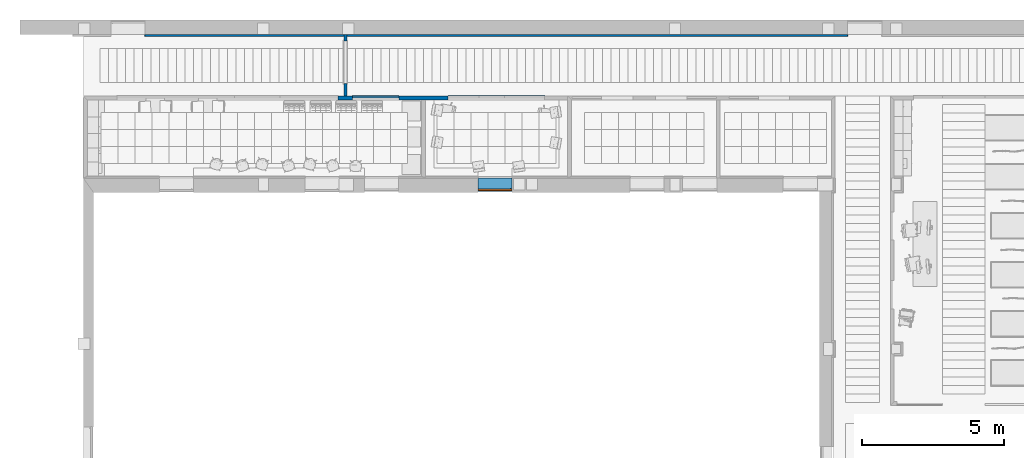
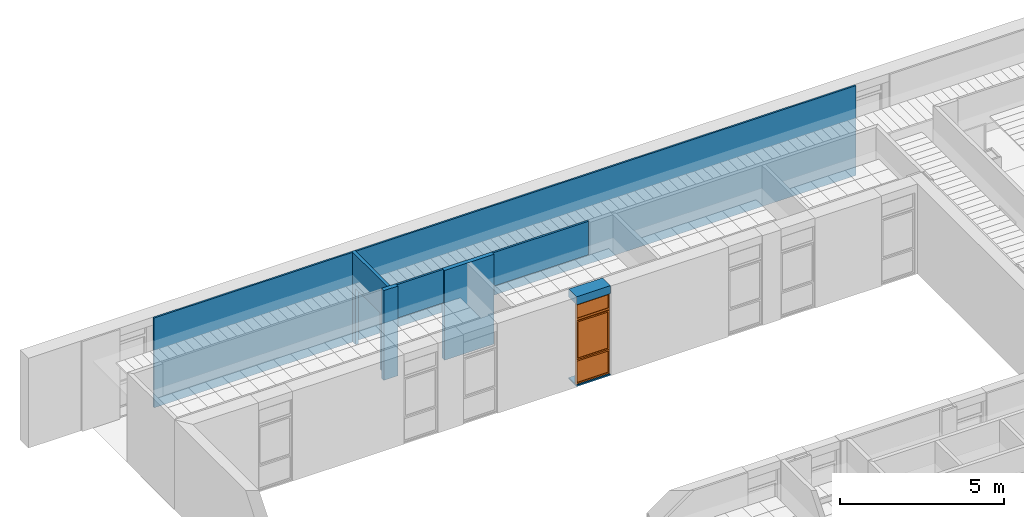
# One storey, part 38 of 68: 7 walls, 1 proxy, 6 openings.
"""IFC2X3 building model written with IfcOpenShell, lengths in millimetres."""

from ifc_helpers import new_model, entity, si_unit, converted_unit, derived_unit, money_unit, direction, frame, origin_with_axes, origin_2d_with_axis, place, context, subcontext, project, spatial, polyline, rectangle, outline, extrude, open_shell, faceted_brep, surface_model, source, transform, mapped, material, layer, layer_set, layer_usage, type_object, element, fill, save


model = new_model("IFC2X3")

# Units and contexts
model_context = context("Model", 3, precision=0.01, world=origin_with_axes(), true_north=direction((0.0, 1.0)))
body_context = subcontext(model_context, "Body", "Model", "MODEL_VIEW")
ifc_project = project(units=[si_unit("LENGTHUNIT", "METRE", prefix="MILLI"), si_unit("AREAUNIT", "SQUARE_METRE"), si_unit("VOLUMEUNIT", "CUBIC_METRE"), converted_unit("PLANEANGLEUNIT", "DEGREE", entity("IfcPlaneAngleMeasure", 0.0174532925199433), si_unit("PLANEANGLEUNIT", "RADIAN"), dimensions=[0, 0, 0, 0, 0, 0, 0]), money_unit("USD"), converted_unit("TIMEUNIT", "Year", entity("IfcTimeMeasure", 31557600.0), si_unit("TIMEUNIT", "SECOND"), dimensions=[0, 0, 1, 0, 0, 0, 0]), si_unit("MASSUNIT", "GRAM", prefix="KILO"), si_unit("THERMODYNAMICTEMPERATUREUNIT", "DEGREE_CELSIUS"), si_unit("LUMINOUSINTENSITYUNIT", "LUMEN"), si_unit("ENERGYUNIT", "JOULE", prefix="MEGA"), derived_unit("THERMALCONDUCTANCEUNIT", [(si_unit("POWERUNIT", "WATT"), 1), (si_unit("LENGTHUNIT", "METRE"), -1), (si_unit("THERMODYNAMICTEMPERATUREUNIT", "KELVIN"), -1)]), derived_unit("SPECIFICHEATCAPACITYUNIT", [(si_unit("ENERGYUNIT", "JOULE"), 1), (si_unit("MASSUNIT", "GRAM", prefix="KILO"), -1), (si_unit("THERMODYNAMICTEMPERATUREUNIT", "KELVIN"), -1)]), derived_unit("MASSDENSITYUNIT", [(si_unit("MASSUNIT", "GRAM", prefix="KILO"), 1), (si_unit("VOLUMEUNIT", "CUBIC_METRE"), -1)])], contexts=[model_context])

# Site, building, storey
site_placement = place(None, origin_with_axes())
site = spatial("IfcSite", under=ifc_project, at=site_placement, Name="Sitio", CompositionType="ELEMENT")
building_placement = place(site_placement, origin_with_axes())
building = spatial("IfcBuilding", under=site, at=building_placement, Name="Construcción", CompositionType="ELEMENT")
storey_placement = place(building_placement, origin_with_axes())
storey = spatial("IfcBuildingStorey", under=building, at=storey_placement, Name="PLANTA 1ª", CompositionType="ELEMENT", Elevation=0.0)

# Wall, opening, proxy
ifc_material_1 = material(Name="ARQ_AM246_Arrebossat_De_Guix")
ifc_layer_1 = layer(ifc_material_1, 10.0, ventilated="UNKNOWN")
ifc_material_2 = material(Name="ARQ_CE217_Gero")
ifc_layer_2 = layer(ifc_material_2, 120.0, ventilated="UNKNOWN")
ifc_material_3 = material(Name="ARQ_AI031_Aillament_Poliestireno expandido EPS")
ifc_layer_3 = layer(ifc_material_3, 120.0, ventilated="UNKNOWN")
ifc_material_4 = material(Name="ARQ_CE218_Ceramic")
ifc_layer_4 = layer(ifc_material_4, 220.0, ventilated="UNKNOWN")
ifc_layer_5 = layer(ifc_material_1, 10.0, ventilated="UNKNOWN")
ifc_layer_set_1 = layer_set([ifc_layer_1, ifc_layer_2, ifc_layer_3, ifc_layer_4, ifc_layer_5], Name="façana pati CR2 (ampit)")
ifc_layer_usage_1 = layer_usage(ifc_layer_set_1, "AXIS2", "POSITIVE", -480.0)
wall_type_1 = type_object("IfcWallType", Name="façana pati CR2 (ampit) 480", PredefinedType="NOTDEFINED")
wall_1_placement = place(storey_placement, frame((-14135.93135579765, -1193.975823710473, 0.0), z_axis=(0.0, 0.0, 1.0), x_axis=(1.0, 0.0, 0.0)))
wall_1 = element("IfcWallStandardCase", 1, at=wall_1_placement, inside=storey, type_object=wall_type_1, material=ifc_layer_usage_1, Name="MS-200", context=body_context, shape_type="SweptSolid", body=[
    extrude(outline(polyline([(0.0, -480.0), (1200.000000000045, -480.0), (1200.000000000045, 0.0), (0.0, 0.0), (0.0, -480.0)])), origin_with_axes(), (0.0, 0.0, 1.0), 3350.0),
])
opening_1_placement = place(wall_1_placement, frame((599.9999999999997, 0.0, 50.0), z_axis=(0.0, 0.0, 1.0), x_axis=(1.0, 0.0, 0.0)))
opening_1 = element("IfcOpeningElement", 2, at=opening_1_placement, cuts=wall_1, Name="F01", context=body_context, shape_type="SweptSolid", body=[
    extrude(rectangle(XDim=1199.999999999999, YDim=3000.0, at=origin_2d_with_axis()), frame((0.0, -429.9999999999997, 1500.0), z_axis=(0.0, -1.0, 0.0), x_axis=(-1.0, 0.0, 0.0)), (0.0, 0.0, -1.0), 909.9999999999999),
    extrude(rectangle(XDim=1199.999999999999, YDim=3000.0, at=origin_2d_with_axis()), frame((0.0, -429.9999999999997, 1500.0), z_axis=(0.0, 1.0, 0.0), x_axis=(-1.0, 0.0, 0.0)), (0.0, 0.0, -1.0), 530.0),
])
building_element_proxy_type = type_object("IfcBuildingElementProxyType", Name="Ventana Vertical Multi-Faja 27", PredefinedType="NOTDEFINED")
shared_shape = source(origin_with_axes(), body_context, "Body", "SurfaceModel", [
    faceted_brep([(-575.0, 0.0, 925.0), (-549.9999999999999, 0.0, 925.0), (-549.9999999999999, 0.0, 850.0), (-549.9999999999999, 0.0, 50.00000000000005), (-600.0, 0.0, 50.00000000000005), (-600.0, 0.0, 2950.0), (-549.9999999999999, 0.0, 2950.0), (-549.9999999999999, 0.0, 2450.0), (-549.9999999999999, 0.0, 2375.0), (-575.0, 0.0, 2375.0), (-575.0, -25.00000000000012, 925.0), (-549.9999999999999, -25.00000000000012, 925.0), (-549.9999999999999, -25.00000000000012, 950.0000000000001), (-549.9999999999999, -50.00000000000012, 950.0000000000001), (-549.9999999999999, -50.00000000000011, 850.0), (-549.9999999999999, -50.00000000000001, 50.00000000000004), (-600.0, -50.00000000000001, 50.00000000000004), (-600.0, -50.00000000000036, 2950.0), (-549.9999999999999, -50.00000000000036, 2950.0), (-549.9999999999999, -50.0000000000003, 2450.0), (-550.0, -25.00000000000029, 2375.0), (-549.9999999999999, -50.00000000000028, 2350.0), (-549.9999999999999, -25.00000000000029, 2350.0), (-575.0, -25.00000000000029, 2375.0)], [[[0, 1, 2, 3, 4, 5, 6, 7, 8, 9]], [[0, 10, 11, 1]], [[11, 12, 13, 14, 2, 1]], [[3, 2, 14, 15]], [[4, 3, 15, 16]], [[5, 4, 16, 17]], [[6, 5, 17, 18]], [[7, 6, 18, 19]], [[20, 8, 7, 19, 21, 22]], [[20, 23, 9, 8]], [[9, 23, 10, 0]], [[22, 12, 11, 10, 23, 20]], [[22, 21, 13, 12]], [[17, 16, 15, 14, 13, 21, 19, 18]]]),
    faceted_brep([(575.0, 0.0, 925.0), (575.0, 0.0, 2375.0), (549.9999999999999, 0.0, 2375.0), (549.9999999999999, 0.0, 2450.0), (549.9999999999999, 0.0, 2950.0), (600.0, 0.0, 2950.0), (600.0, 0.0, 50.00000000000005), (549.9999999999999, 0.0, 50.00000000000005), (549.9999999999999, 0.0, 850.0), (549.9999999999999, 0.0, 925.0), (575.0, -25.00000000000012, 925.0), (575.0, -25.00000000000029, 2375.0), (549.9999999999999, -25.00000000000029, 2375.0), (549.9999999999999, -25.00000000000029, 2350.0), (549.9999999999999, -50.00000000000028, 2350.0), (549.9999999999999, -50.0000000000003, 2450.0), (549.9999999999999, -50.00000000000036, 2950.0), (600.0, -50.00000000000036, 2950.0), (600.0, -50.00000000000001, 50.00000000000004), (549.9999999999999, -50.00000000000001, 50.00000000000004), (549.9999999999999, -50.00000000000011, 850.0), (550.0, -25.00000000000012, 925.0), (549.9999999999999, -50.00000000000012, 950.0000000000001), (549.9999999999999, -25.00000000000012, 950.0000000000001)], [[[0, 1, 2, 3, 4, 5, 6, 7, 8, 9]], [[0, 10, 11, 1]], [[1, 11, 12, 2]], [[12, 13, 14, 15, 3, 2]], [[4, 3, 15, 16]], [[5, 4, 16, 17]], [[6, 5, 17, 18]], [[7, 6, 18, 19]], [[8, 7, 19, 20]], [[21, 9, 8, 20, 22, 23]], [[9, 21, 10, 0]], [[12, 11, 10, 21, 23, 13]], [[23, 22, 14, 13]], [[14, 22, 20, 19, 18, 17, 16, 15]]]),
    faceted_brep([(-549.9999999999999, -25.00000000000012, 950.0000000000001), (-549.9999999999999, -50.00000000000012, 950.0000000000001), (549.9999999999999, -50.00000000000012, 950.0000000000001), (549.9999999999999, -25.00000000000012, 950.0000000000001), (-549.9999999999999, -25.00000000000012, 925.0), (-549.9999999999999, 0.0, 925.0), (-549.9999999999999, 0.0, 850.0), (-549.9999999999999, -50.00000000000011, 850.0), (549.9999999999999, -50.00000000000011, 850.0), (550.0, -25.00000000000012, 925.0), (549.9999999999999, 0.0, 850.0), (549.9999999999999, 0.0, 925.0)], [[[0, 1, 2, 3]], [[4, 5, 6, 7, 1, 0]], [[1, 7, 8, 2]], [[9, 3, 2, 8, 10, 11]], [[9, 4, 0, 3]], [[5, 4, 9, 11]], [[11, 10, 6, 5]], [[6, 10, 8, 7]]]),
    faceted_brep([(-549.9999999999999, 0.0, 2375.0), (-549.9999999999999, 0.0, 2450.0), (549.9999999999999, 0.0, 2450.0), (549.9999999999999, 0.0, 2375.0), (-550.0, -25.00000000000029, 2375.0), (-549.9999999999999, -25.00000000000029, 2350.0), (-549.9999999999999, -50.00000000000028, 2350.0), (-549.9999999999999, -50.0000000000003, 2450.0), (549.9999999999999, -50.0000000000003, 2450.0), (549.9999999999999, -25.00000000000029, 2375.0), (549.9999999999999, -50.00000000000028, 2350.0), (549.9999999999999, -25.00000000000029, 2350.0)], [[[0, 1, 2, 3]], [[4, 5, 6, 7, 1, 0]], [[2, 1, 7, 8]], [[9, 3, 2, 8, 10, 11]], [[9, 4, 0, 3]], [[11, 5, 4, 9]], [[11, 10, 6, 5]], [[7, 6, 10, 8]]]),
    faceted_brep([(549.9999999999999, -50.00000000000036, 2950.0), (549.9999999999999, 0.0, 2950.0), (600.0, 0.0, 2950.0), (600.0, -50.00000000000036, 2950.0), (-549.9999999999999, -50.00000000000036, 2950.0), (-549.9999999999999, 0.0, 2950.0), (-600.0, 0.0, 2950.0), (-600.0, 0.0, 3000.0), (600.0, 0.0, 3000.0), (600.0, -50.00000000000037, 3000.0), (-600.0, -50.00000000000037, 3000.0), (-600.0, -50.00000000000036, 2950.0)], [[[0, 1, 2, 3]], [[4, 5, 1, 0]], [[1, 5, 6, 7, 8, 2]], [[3, 2, 8, 9]], [[0, 3, 9, 10, 11, 4]], [[11, 6, 5, 4]], [[10, 7, 6, 11]], [[9, 8, 7, 10]]]),
    faceted_brep([(-549.9999999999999, -50.00000000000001, 50.0), (-549.9999999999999, 0.0, 50.00000000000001), (-600.0, 0.0, 50.00000000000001), (-600.0, -50.00000000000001, 50.0), (549.9999999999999, -50.00000000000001, 50.0), (549.9999999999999, 0.0, 50.00000000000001), (600.0, 0.0, 50.00000000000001), (600.0, 0.0, 0.0), (-600.0, 0.0, 0.0), (-600.0, -50.0, 0.0), (600.0, -50.0, 0.0), (600.0, -50.00000000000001, 50.0)], [[[0, 1, 2, 3]], [[4, 5, 1, 0]], [[1, 5, 6, 7, 8, 2]], [[3, 2, 8, 9]], [[0, 3, 9, 10, 11, 4]], [[11, 6, 5, 4]], [[10, 7, 6, 11]], [[9, 8, 7, 10]]]),
    surface_model("IfcShellBasedSurfaceModel", [(-549.9999999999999, -35.0, 49.99999999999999), (549.9999999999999, -35.0, 49.99999999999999), (549.9999999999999, -35.0000000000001, 850.0), (-549.9999999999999, -35.0000000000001, 850.0)], [open_shell([[[0, 1, 2, 3]]])]),
    surface_model("IfcShellBasedSurfaceModel", [(-549.9999999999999, -15.0, 49.99999999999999), (-549.9999999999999, -15.0000000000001, 850.0), (549.9999999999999, -15.0000000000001, 850.0), (549.9999999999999, -15.0, 49.99999999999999)], [open_shell([[[0, 1, 2, 3]]])]),
    faceted_brep([(-521.5, -25.00000000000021, 1677.0), (-522.8397459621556, -25.00000000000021, 1682.0), (-522.8397459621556, -37.00000000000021, 1682.0), (-521.5, -37.00000000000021, 1677.0), (-521.5, -25.0000000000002, 1623.0), (-522.8397459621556, -25.0000000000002, 1618.0), (-526.5, -25.0000000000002, 1614.339745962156), (-531.5, -25.0000000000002, 1613.0), (-543.5, -25.0000000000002, 1613.0), (-548.5, -25.0000000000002, 1614.339745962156), (-552.1602540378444, -25.0000000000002, 1618.0), (-553.5, -25.0000000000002, 1623.0), (-553.5, -25.00000000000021, 1677.0), (-552.1602540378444, -25.00000000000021, 1682.0), (-548.5, -25.00000000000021, 1685.660254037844), (-543.5, -25.00000000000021, 1687.0), (-531.5, -25.00000000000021, 1687.0), (-526.5, -25.00000000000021, 1685.660254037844), (-526.5, -37.00000000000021, 1685.660254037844), (-531.5, -37.00000000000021, 1687.0), (-543.5, -37.00000000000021, 1687.0), (-548.5, -37.00000000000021, 1685.660254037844), (-552.1602540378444, -37.00000000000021, 1682.0), (-553.5, -37.00000000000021, 1677.0), (-553.5, -37.0000000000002, 1623.0), (-552.1602540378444, -37.0000000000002, 1618.0), (-548.5, -37.0000000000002, 1614.339745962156), (-543.5, -37.0000000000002, 1613.0), (-531.5, -37.0000000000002, 1613.0), (-526.5, -37.0000000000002, 1614.339745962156), (-522.8397459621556, -37.0000000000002, 1618.0), (-521.5, -37.0000000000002, 1623.0)], [[[0, 1, 2, 3]], [[0, 4, 5, 6, 7, 8, 9, 10, 11, 12, 13, 14, 15, 16, 17, 1]], [[1, 17, 18, 2]], [[3, 2, 18, 19, 20, 21, 22, 23, 24, 25, 26, 27, 28, 29, 30, 31]], [[4, 0, 3, 31]], [[5, 4, 31, 30]], [[6, 5, 30, 29]], [[7, 6, 29, 28]], [[8, 7, 28, 27]], [[9, 8, 27, 26]], [[10, 9, 26, 25]], [[11, 10, 25, 24]], [[12, 11, 24, 23]], [[13, 12, 23, 22]], [[14, 13, 22, 21]], [[15, 14, 21, 20]], [[16, 15, 20, 19]], [[17, 16, 19, 18]]]),
    faceted_brep([(-537.5, -37.0000000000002, 1663.5), (-544.25, -37.0000000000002, 1661.69134295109), (-544.25, -61.00000000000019, 1661.69134295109), (-537.5, -61.00000000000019, 1663.5), (-530.75, -37.0000000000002, 1661.69134295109), (-525.80865704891, -37.0000000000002, 1656.75), (-524.0, -37.0000000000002, 1650.0), (-525.8086570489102, -37.0000000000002, 1643.25), (-530.75, -37.0000000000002, 1638.30865704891), (-537.5, -37.0000000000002, 1636.5), (-544.25, -37.0000000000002, 1638.30865704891), (-549.19134295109, -37.0000000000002, 1643.25), (-550.9999999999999, -37.0000000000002, 1650.0), (-549.1913429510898, -37.0000000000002, 1656.75), (-549.1913429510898, -61.00000000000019, 1656.75), (-550.9999999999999, -61.00000000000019, 1650.0), (-549.19134295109, -61.00000000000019, 1643.25), (-544.25, -61.00000000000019, 1638.30865704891), (-537.5, -61.00000000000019, 1636.5), (-530.75, -61.00000000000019, 1638.30865704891), (-525.8086570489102, -61.00000000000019, 1643.25), (-524.0, -61.00000000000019, 1650.0), (-525.80865704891, -61.00000000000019, 1656.75), (-530.75, -61.00000000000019, 1661.69134295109)], [[[0, 1, 2, 3]], [[0, 4, 5, 6, 7, 8, 9, 10, 11, 12, 13, 1]], [[1, 13, 14, 2]], [[3, 2, 14, 15, 16, 17, 18, 19, 20, 21, 22, 23]], [[4, 0, 3, 23]], [[5, 4, 23, 22]], [[6, 5, 22, 21]], [[7, 6, 21, 20]], [[8, 7, 20, 19]], [[9, 8, 19, 18]], [[10, 9, 18, 17]], [[11, 10, 17, 16]], [[12, 11, 16, 15]], [[13, 12, 15, 14]]]),
    faceted_brep([(-526.0, -61.00000000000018, 1543.0), (-537.5, -61.00000000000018, 1540.0), (-548.9999999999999, -61.00000000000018, 1543.0), (-550.9999999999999, -61.00000000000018, 1546.0), (-550.9999999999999, -61.00000000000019, 1650.0), (-549.1913429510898, -61.00000000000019, 1656.75), (-544.25, -61.00000000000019, 1661.69134295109), (-537.5, -61.00000000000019, 1663.5), (-530.75, -61.00000000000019, 1661.69134295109), (-525.80865704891, -61.00000000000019, 1656.75), (-524.0, -61.00000000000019, 1650.0), (-524.0, -61.00000000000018, 1546.0), (-525.9999999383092, -69.00000000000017, 1543.000000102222), (-537.499999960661, -69.00000000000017, 1539.999999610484), (-548.9999999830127, -69.00000000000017, 1543.000000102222), (-551.0000003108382, -69.00000000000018, 1545.999999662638), (-551.0000003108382, -69.0000000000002, 1649.99999994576), (-549.1913429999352, -69.0000000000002, 1656.749999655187), (-544.2499996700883, -69.0000000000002, 1661.691342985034), (-537.499999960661, -69.0000000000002, 1663.500000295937), (-530.7500002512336, -69.0000000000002, 1661.691342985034), (-525.8086569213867, -69.0000000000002, 1656.749999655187), (-523.9999996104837, -69.0000000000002, 1649.99999994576), (-523.9999996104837, -69.00000000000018, 1545.999999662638), (-527.8625374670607, -71.99999956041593, 1545.61451963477), (-537.499999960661, -71.99999956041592, 1543.100398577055), (-547.1374624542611, -71.99999956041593, 1545.61451963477), (-548.0000007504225, -71.99999956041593, 1546.908326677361), (-548.0000007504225, -71.99999956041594, 1649.605042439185), (-546.5016170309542, -71.99999956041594, 1655.197085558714), (-542.6970855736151, -71.99999956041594, 1659.001617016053), (-537.499999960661, -71.99999956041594, 1660.394172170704), (-532.3029143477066, -71.99999956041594, 1659.001617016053), (-528.4983828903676, -71.99999956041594, 1655.197085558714), (-526.9999991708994, -71.99999956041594, 1649.605042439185), (-526.9999991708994, -71.99999956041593, 1546.908326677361)], [[[0, 1, 2, 3, 4, 5, 6, 7, 8, 9, 10, 11]], [[1, 0, 12, 13]], [[2, 1, 13, 14]], [[3, 2, 14, 15]], [[4, 3, 15, 16]], [[5, 4, 16, 17]], [[6, 5, 17, 18]], [[7, 6, 18, 19]], [[8, 7, 19, 20]], [[9, 8, 20, 21]], [[10, 9, 21, 22]], [[11, 10, 22, 23]], [[0, 11, 23, 12]], [[13, 12, 24, 25]], [[14, 13, 25, 26]], [[15, 14, 26, 27]], [[16, 15, 27, 28]], [[17, 16, 28, 29]], [[18, 17, 29, 30]], [[19, 18, 30, 31]], [[20, 19, 31, 32]], [[21, 20, 32, 33]], [[22, 21, 33, 34]], [[23, 22, 34, 35]], [[12, 23, 35, 24]], [[26, 25, 24, 35, 34, 33, 32, 31, 30, 29, 28, 27]]]),
    faceted_brep([(-524.9999999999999, -25.00000000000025, 2325.0), (-524.9999999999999, 24.99999999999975, 2325.0), (-575.0, 24.99999999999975, 2325.0), (-575.0, -25.00000000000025, 2325.0), (-524.9999999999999, -25.00000000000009, 975.0000000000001), (-524.9999999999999, 24.99999999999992, 975.0000000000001), (-575.0, 24.99999999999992, 975.0000000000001), (-575.0, -25.00000000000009, 975.0000000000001)], [[[0, 1, 2, 3]], [[4, 5, 1, 0]], [[1, 5, 6, 2]], [[3, 2, 6, 7]], [[0, 3, 7, 4]], [[7, 6, 5, 4]]]),
    faceted_brep([(524.9999999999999, -25.00000000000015, 975.0000000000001), (524.9999999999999, 24.99999999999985, 975.0000000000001), (575.0, 24.99999999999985, 975.0000000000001), (575.0, -25.00000000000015, 975.0000000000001), (524.9999999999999, -25.00000000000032, 2325.0), (524.9999999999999, 24.99999999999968, 2325.0), (575.0, 24.99999999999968, 2325.0), (575.0, -25.00000000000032, 2325.0)], [[[0, 1, 2, 3]], [[4, 5, 1, 0]], [[1, 5, 6, 2]], [[3, 2, 6, 7]], [[0, 3, 7, 4]], [[7, 6, 5, 4]]]),
    faceted_brep([(575.0, -25.00000000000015, 925.0), (575.0, 24.99999999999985, 925.0), (575.0, 24.99999999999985, 975.0000000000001), (575.0, -25.00000000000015, 975.0000000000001), (-575.0, -25.00000000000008, 925.0), (-575.0, 24.99999999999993, 925.0), (-575.0, 24.99999999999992, 975.0000000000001), (-524.9999999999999, 24.99999999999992, 975.0000000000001), (524.9999999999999, 24.99999999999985, 975.0000000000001), (524.9999999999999, -25.00000000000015, 975.0000000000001), (-524.9999999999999, -25.00000000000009, 975.0000000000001), (-575.0, -25.00000000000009, 975.0000000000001)], [[[0, 1, 2, 3]], [[4, 5, 1, 0]], [[1, 5, 6, 7, 8, 2]], [[3, 2, 8, 9]], [[0, 3, 9, 10, 11, 4]], [[11, 6, 5, 4]], [[10, 7, 6, 11]], [[9, 8, 7, 10]]]),
    faceted_brep([(-575.0, -25.00000000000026, 2375.0), (-575.0, 24.99999999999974, 2375.0), (-575.0, 24.99999999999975, 2325.0), (-575.0, -25.00000000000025, 2325.0), (575.0, -25.00000000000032, 2375.0), (575.0, 24.99999999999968, 2375.0), (575.0, 24.99999999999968, 2325.0), (524.9999999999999, 24.99999999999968, 2325.0), (-524.9999999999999, 24.99999999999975, 2325.0), (-524.9999999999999, -25.00000000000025, 2325.0), (524.9999999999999, -25.00000000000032, 2325.0), (575.0, -25.00000000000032, 2325.0)], [[[0, 1, 2, 3]], [[4, 5, 1, 0]], [[1, 5, 6, 7, 8, 2]], [[3, 2, 8, 9]], [[0, 3, 9, 10, 11, 4]], [[11, 6, 5, 4]], [[10, 7, 6, 11]], [[9, 8, 7, 10]]]),
    surface_model("IfcShellBasedSurfaceModel", [(-524.9999999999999, -10.00000000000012, 975.0000000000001), (524.9999999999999, -10.00000000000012, 975.0000000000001), (524.9999999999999, -10.00000000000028, 2325.0), (-524.9999999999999, -10.00000000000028, 2325.0)], [open_shell([[[0, 1, 2, 3]]])]),
    surface_model("IfcShellBasedSurfaceModel", [(-524.9999999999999, 9.999999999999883, 975.0000000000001), (-524.9999999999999, 9.99999999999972, 2325.0), (524.9999999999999, 9.99999999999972, 2325.0), (524.9999999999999, 9.999999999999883, 975.0000000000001)], [open_shell([[[0, 1, 2, 3]]])]),
    surface_model("IfcShellBasedSurfaceModel", [(-549.9999999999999, -35.0000000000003, 2450.0), (549.9999999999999, -35.0000000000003, 2450.0), (549.9999999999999, -35.00000000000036, 2950.0), (-549.9999999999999, -35.00000000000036, 2950.0)], [open_shell([[[0, 1, 2, 3]]])]),
    surface_model("IfcShellBasedSurfaceModel", [(-549.9999999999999, -15.0000000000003, 2450.0), (-549.9999999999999, -15.00000000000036, 2950.0), (549.9999999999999, -15.00000000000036, 2950.0), (549.9999999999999, -15.0000000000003, 2450.0)], [open_shell([[[0, 1, 2, 3]]])]),
])
proxy_placement = place(opening_1_placement, frame((599.9999999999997, 0.0, 0.0), z_axis=(0.0, 0.0, 1.0), x_axis=(-1.0, 0.0, 0.0)))
proxy = element("IfcBuildingElementProxy", 3, at=proxy_placement, inside=storey, type_object=building_element_proxy_type, Name="F01", context=body_context, shape_type="MappedRepresentation", body=[
    mapped(shared_shape, transform((599.9999999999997, 429.9999999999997, 0.0))),
])
fill(opening_1, proxy)

# Wall, openings
ifc_material_5 = material(Name="Panel de Yeso Laminado")
ifc_layer_6 = layer(ifc_material_5, 5.0, ventilated="UNKNOWN")
ifc_material_6 = material(Name="ARQ_AI033_Aillament_Llana_De_Roca")
ifc_layer_7 = layer(ifc_material_6, 60.0, ventilated="UNKNOWN")
ifc_layer_8 = layer(ifc_material_5, 5.0, ventilated="UNKNOWN")
ifc_layer_set_2 = layer_set([ifc_layer_6, ifc_layer_7, ifc_layer_8], Name="CR- MAMPARA")
ifc_layer_usage_2 = layer_usage(ifc_layer_set_2, "AXIS2", "POSITIVE", 0.0)
wall_type_2 = type_object("IfcWallType", Name="CR- MAMPARA 70", PredefinedType="NOTDEFINED")
wall_2_placement = place(storey_placement, frame((-11795.8481802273, 1700.853055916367, 0.0), z_axis=(0.0, 0.0, 1.0), x_axis=(-1.0, 0.0, 0.0)))
wall_2 = element("IfcWallStandardCase", 4, at=wall_2_placement, inside=storey, type_object=wall_type_2, material=ifc_layer_usage_2, Name="MS-214", context=body_context, shape_type="SweptSolid", body=[
    extrude(outline(polyline([(0.0, 0.0), (3394.033269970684, 0.0), (3394.033269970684, 70.00000000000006), (0.0, 70.00000000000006), (0.0, 0.0)])), origin_with_axes(), (0.0, 0.0, 1.0), 3350.0),
])
opening_2_placement = place(wall_2_placement, frame((702.7495741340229, 0.0, 0.0), z_axis=(0.0, 0.0, 1.0), x_axis=(1.0, 0.0, 0.0)))
element("IfcOpeningElement", 5, at=opening_2_placement, cuts=wall_2, Name="M-07", context=body_context, shape_type="SweptSolid", body=[
    extrude(rectangle(XDim=1405.499148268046, YDim=2100.0, at=origin_2d_with_axis()), frame((0.0, -69.99999999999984, 1050.0), z_axis=(0.0, 1.0, 0.0), x_axis=(-1.0, 0.0, 0.0)), (0.0, 0.0, 1.0), 210.0),
])
opening_3_placement = place(wall_2_placement, frame((2849.766209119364, 0.0, 0.0), z_axis=(0.0, 0.0, 1.0), x_axis=(1.0, 0.0, 0.0)))
element("IfcOpeningElement", 6, at=opening_3_placement, cuts=wall_2, Name="M-06", context=body_context, shape_type="SweptSolid", body=[
    extrude(rectangle(XDim=1088.534121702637, YDim=2100.0, at=origin_2d_with_axis()), frame((0.0, -69.99999999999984, 1050.0), z_axis=(0.0, 1.0, 0.0), x_axis=(-1.0, 0.0, 0.0)), (0.0, 0.0, 1.0), 210.0),
])
opening_4_placement = place(wall_2_placement, frame((1855.499148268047, 0.0, 0.0), z_axis=(0.0, 0.0, 1.0), x_axis=(1.0, 0.0, 0.0)))
element("IfcOpeningElement", 7, at=opening_4_placement, cuts=wall_2, Name="PM-3", context=body_context, shape_type="SweptSolid", body=[
    extrude(rectangle(XDim=899.9999999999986, YDim=2100.0, at=origin_2d_with_axis()), frame((0.0, -69.99999999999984, 1050.0), z_axis=(0.0, 1.0, 0.0), x_axis=(1.0, 0.0, 0.0)), (0.0, 0.0, 1.0), 210.0),
])

# Wall, opening
ifc_layer_usage_3 = layer_usage(ifc_layer_set_2, "AXIS2", "POSITIVE", 0.0)
wall_3_placement = place(storey_placement, frame((-16930.05268016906, 1700.853055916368, 0.0), z_axis=(0.0, 0.0, 1.0), x_axis=(-1.0, 0.0, 0.0)))
wall_3 = element("IfcWallStandardCase", 8, at=wall_3_placement, inside=storey, type_object=wall_type_2, material=ifc_layer_usage_3, Name="MS-214", context=body_context, shape_type="SweptSolid", body=[
    extrude(outline(polyline([(0.0, 0.0), (1640.624539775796, 0.0), (1640.624539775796, 70.00000000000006), (0.0, 70.00000000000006), (0.0, 0.0)])), origin_with_axes(), (0.0, 0.0, 1.0), 3350.0),
])
opening_5_placement = place(wall_3_placement, frame((820.3122698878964, 0.0, 0.0), z_axis=(0.0, 0.0, 1.0), x_axis=(1.0, 0.0, 0.0)))
element("IfcOpeningElement", 9, at=opening_5_placement, cuts=wall_3, Name="M-05", context=body_context, shape_type="SweptSolid", body=[
    extrude(rectangle(XDim=1640.624539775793, YDim=2100.0, at=origin_2d_with_axis()), frame((0.0, -69.99999999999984, 1050.0), z_axis=(0.0, 1.0, 0.0), x_axis=(-1.0, 0.0, 0.0)), (0.0, 0.0, 1.0), 210.0),
])

ifc_layer_9 = layer(ifc_material_1, 10.0, ventilated="UNKNOWN")
ifc_layer_10 = layer(ifc_material_2, 90.0, ventilated="UNKNOWN")
ifc_layer_11 = layer(ifc_material_1, 10.0, ventilated="UNKNOWN")
ifc_layer_set_3 = layer_set([ifc_layer_9, ifc_layer_10, ifc_layer_11], Name="CR Enva Totxana")
ifc_layer_usage_4 = layer_usage(ifc_layer_set_3, "AXIS2", "POSITIVE", 0.0)
wall_type_3 = type_object("IfcWallType", Name="CR Enva Totxana 110", PredefinedType="NOTDEFINED")
wall_4_placement = place(storey_placement, frame((-18761.10900491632, 1700.853055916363, 0.0), z_axis=(0.0, 0.0, 1.0), x_axis=(0.0, 1.0, 0.0)))
wall_4 = element("IfcWallStandardCase", 10, at=wall_4_placement, inside=storey, type_object=wall_type_3, material=ifc_layer_usage_4, Name="MS-203", context=body_context, shape_type="SweptSolid", body=[
    extrude(outline(polyline([(0.0, 0.0), (2162.601130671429, 0.0), (2162.601130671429, 109.9999999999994), (0.0, 109.9999999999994), (0.0, 0.0)])), origin_with_axes(), (0.0, 0.0, 1.0), 3350.0),
])
opening_6_placement = place(wall_4_placement, frame((1186.119170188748, 0.0, 0.0), z_axis=(0.0, 0.0, 1.0), x_axis=(1.0, 0.0, 0.0)))
element("IfcOpeningElement", 11, at=opening_6_placement, cuts=wall_4, Name="PF-15D", context=body_context, shape_type="SweptSolid", body=[
    extrude(rectangle(XDim=1500.0, YDim=2100.0, at=origin_2d_with_axis()), frame((0.0, 109.9999999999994, 1050.0), z_axis=(0.0, 1.0, 0.0), x_axis=(-1.0, 0.0, 0.0)), (0.0, 0.0, -1.0), 329.9999999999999),
    extrude(rectangle(XDim=1574.0, YDim=2137.0, at=origin_2d_with_axis()), frame((0.0, 109.9999999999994, 1068.5), z_axis=(0.0, 1.0, 0.0), x_axis=(-1.0, 0.0, 0.0)), (0.0, 0.0, 1.0), 110.0),
    extrude(rectangle(XDim=1574.0, YDim=2137.0, at=origin_2d_with_axis()), frame((0.0, 0.0, 1068.5), z_axis=(0.0, -1.0, 0.0), x_axis=(-1.0, 0.0, 0.0)), (0.0, 0.0, 1.0), 110.0),
])

# Walls
ifc_material_7 = material(Name="ARQ_FU093_Panellat_HPL")
ifc_layer_12 = layer(ifc_material_7, 6.0, ventilated="UNKNOWN")
ifc_material_8 = material(Name="ARQ_EN271_Camara_Aire")
ifc_layer_13 = layer(ifc_material_8, 6.0, ventilated="UNKNOWN")
ifc_layer_14 = layer(ifc_material_5, 13.0, ventilated="UNKNOWN")
ifc_layer_15 = layer(ifc_material_5, 13.0, ventilated="UNKNOWN")
ifc_layer_16 = layer(ifc_material_6, 70.0, ventilated="UNKNOWN")
ifc_layer_17 = layer(ifc_material_5, 13.0, ventilated="UNKNOWN")
ifc_layer_18 = layer(ifc_material_5, 13.0, ventilated="UNKNOWN")
ifc_layer_19 = layer(ifc_material_8, 6.0, ventilated="UNKNOWN")
ifc_layer_20 = layer(ifc_material_7, 6.0, ventilated="UNKNOWN")
ifc_layer_set_4 = layer_set([ifc_layer_12, ifc_layer_13, ifc_layer_14, ifc_layer_15, ifc_layer_16, ifc_layer_17, ifc_layer_18, ifc_layer_19, ifc_layer_20], Name="CR Pladur 70 HPL 2 cares")
ifc_layer_usage_5 = layer_usage(ifc_layer_set_4, "AXIS2", "NEGATIVE", 0.0)
wall_type_4 = type_object("IfcWallType", Name="CR Pladur 70 HPL 2 cares 146", PredefinedType="NOTDEFINED")
wall_5_placement = place(storey_placement, frame((-15189.88145019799, 1554.853055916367, 0.0), z_axis=(0.0, 0.0, 1.0), x_axis=(-1.0, 0.0, 0.0)))
element("IfcWallStandardCase", 12, at=wall_5_placement, inside=storey, type_object=wall_type_4, material=ifc_layer_usage_5, Name="MS-214", context=body_context, shape_type="SweptSolid", body=[
    extrude(outline(polyline([(0.0, -146.0000000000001), (1740.171229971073, -146.0000000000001), (1740.171229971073, 0.0), (0.0, 0.0), (0.0, -146.0000000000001)])), origin_with_axes(), (0.0, 0.0, 1.0), 3350.0),
])
ifc_layer_usage_6 = layer_usage(ifc_layer_set_4, "AXIS2", "NEGATIVE", 0.0)
wall_6_placement = place(storey_placement, frame((-18570.67721994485, 1554.853055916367, 0.0), z_axis=(0.0, 0.0, 1.0), x_axis=(-1.0, 0.0, 0.0)))
element("IfcWallStandardCase", 13, at=wall_6_placement, inside=storey, type_object=wall_type_4, material=ifc_layer_usage_6, Name="MS-214", context=body_context, shape_type="SweptSolid", body=[
    extrude(outline(polyline([(0.0, -145.9999999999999), (500.4317849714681, -145.9999999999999), (500.4317849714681, 0.0), (0.0, 0.0), (0.0, -145.9999999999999)])), origin_with_axes(), (0.0, 0.0, 1.0), 3350.0),
])
ifc_layer_21 = layer(ifc_material_1, 20.0, ventilated="UNKNOWN")
ifc_layer_22 = layer(ifc_material_8, 40.0, ventilated="UNKNOWN")
ifc_layer_set_5 = layer_set([ifc_layer_21, ifc_layer_22], Name="CR Revestiment HPL")
ifc_layer_usage_7 = layer_usage(ifc_layer_set_5, "AXIS2", "POSITIVE", 0.0)
wall_type_5 = type_object("IfcWallType", Name="CR Revestiment HPL 60", PredefinedType="NOTDEFINED")
wall_7_placement = place(storey_placement, frame((-25879.09132587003, 3803.454186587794, 0.0), z_axis=(0.0, 0.0, 1.0), x_axis=(1.0, 0.0, 0.0)))
element("IfcWallStandardCase", 14, at=wall_7_placement, inside=storey, type_object=wall_type_5, material=ifc_layer_usage_7, Name="MS-214", context=body_context, shape_type="SweptSolid", body=[
    extrude(outline(polyline([(0.0, 0.0), (24768.56152343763, 0.0), (24768.56152343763, 60.00000000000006), (0.0, 60.00000000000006), (0.0, 0.0)])), origin_with_axes(), (0.0, 0.0, 1.0), 3350.0),
])

save(model, "model.ifc")
